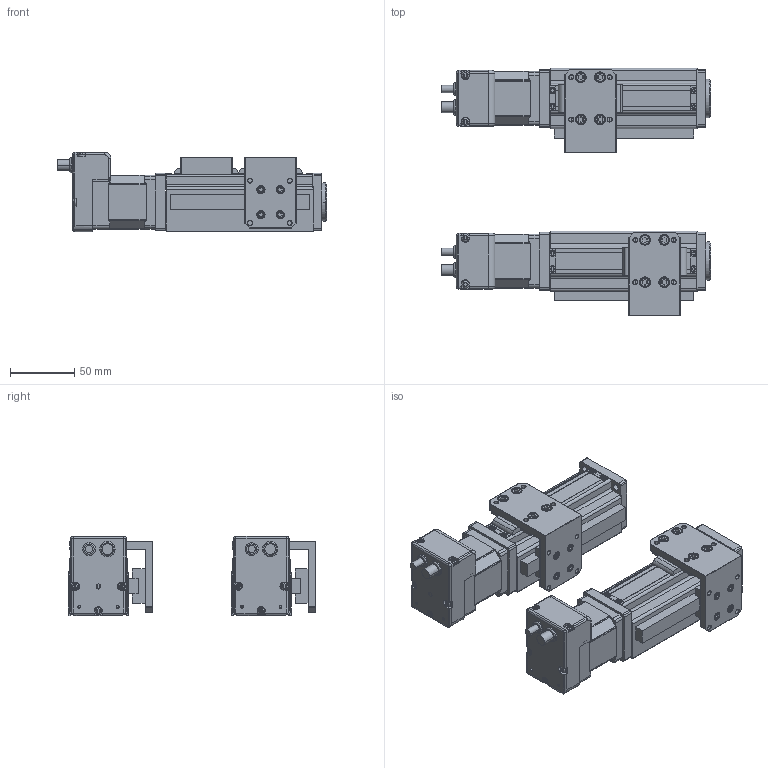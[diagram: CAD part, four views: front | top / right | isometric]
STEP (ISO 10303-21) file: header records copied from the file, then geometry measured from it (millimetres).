
FILE_DESCRIPTION(('STEP AP214'),'1');
FILE_NAME('K:\外形図\3D_DAD2\SCLL5\SCLG5\tmp0.step',' ',(' '),(' '),'XStep 1.0',' ',' ');
FILE_SCHEMA(('automotive_design'));
Length unit declared in the file: millimetre
Bounding box: 210.5 x 192.89 x 62 mm (x, y, z)
Volume: 830657.7 mm3; surface area: 207393.1 mm2
Topology: 81 solids, 81 shells, 3619 faces, 9240 edges, 5706 vertices
Faces by surface type: cylinder 1654, plane 1339, torus 458, sphere 148, bspline 20
Entity records: 140466 total; most frequent: DIRECTION 20460, CARTESIAN_POINT 19562, ORIENTED_EDGE 18208, EDGE_CURVE 9104, AXIS2_PLACEMENT_3D 7728, VERTEX_POINT 5706, LINE 5004, VECTOR 5004
